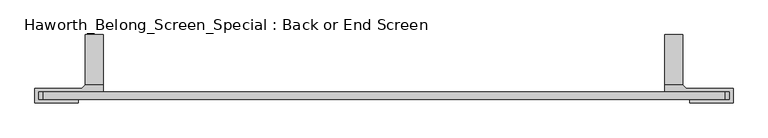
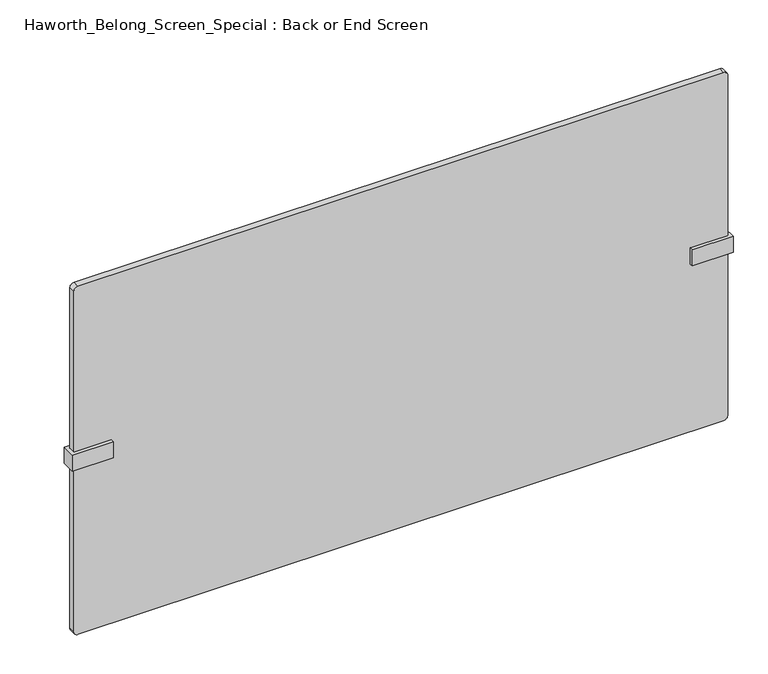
"""IFC4 building model written with IfcOpenShell, lengths in millimetres: furniture geometry, Haworth_Belong_Screen_Special : Back or End Screen."""

from ifc_helpers import new_model, si_unit, point, frame, frame_2d, origin, place, context, project, spatial, polyline, circle_curve, trimmed, segment, composite_curve, outline, extrude, faceted_brep, source, transform, mapped, element, save


def haworth_belong_screen_special_back_or_end_screen_74b999c0(model_context):
    return source(origin(), model_context, "Body", "SolidModel", [
        faceted_brep([(-527.9645436, 6.35, 700.0875), (-527.9645436, 107.95, 700.0875), (-527.9645436, 107.95, 706.4375), (-527.9645436, 19.05, 706.4375), (-527.9645436, 19.05, 738.1875), (-527.9645436, 6.35, 738.1875), (-559.7145436, 107.95, 706.4375), (-559.7145436, 107.95, 700.0875), (-559.7145436, 6.35, 700.0875), (-559.7145436, 6.35, 706.4375), (-559.7145436, 19.05, 706.4375), (-642.2645436, 6.35, 738.1875), (-642.2645436, 6.35, 706.4375), (-642.2645436, -6.35, 738.1875), (-559.7145436, 19.05, 738.1875), (-566.0645436, 12.7, 738.1875), (-648.6145436, 12.7, 738.1875), (-648.6145436, -12.7, 738.1875), (-572.4145436, -12.7, 738.1875), (-572.4145436, -6.35, 738.1875), (-642.2645436, -6.35, 706.4375), (-572.4145436, -6.35, 706.4375), (-572.4145436, -12.7, 706.4375), (-648.6145436, -12.7, 706.4375), (-648.6145436, 12.7, 706.4375), (-566.0645436, 12.7, 706.4375)], [[[0, 1, 2, 3, 4, 5]], [[6, 7, 8, 9, 10]], [[2, 6, 10, 3]], [[0, 5, 11, 12, 9, 8]], [[1, 0, 8, 7]], [[2, 1, 7, 6]], [[13, 11, 5, 4, 14, 15, 16, 17, 18, 19]], [[20, 21, 22, 23, 24, 25, 10, 9, 12]], [[11, 13, 20, 12]], [[14, 4, 3, 10]], [[15, 14, 10, 25]], [[16, 15, 25, 24]], [[17, 16, 24, 23]], [[18, 17, 23, 22]], [[19, 18, 22, 21]], [[13, 19, 21, 20]]]),
        faceted_brep([(462.6354564, 107.95, 706.4375), (462.6354564, 107.95, 700.0875), (462.6354564, 6.35, 700.0875), (462.6354564, 6.35, 738.1875), (462.6354564, 19.05, 738.1875), (462.6354564, 19.05, 706.4375), (494.3854564, 6.35, 706.4375), (494.3854564, 6.35, 700.0875), (494.3854564, 107.95, 700.0875), (494.3854564, 107.95, 706.4375), (494.3854564, 19.05, 706.4375), (576.9354564, 6.35, 706.4375), (576.9354564, 6.35, 738.1875), (576.9354564, -6.35, 738.1875), (507.0854564, -6.35, 738.1875), (507.0854564, -12.7, 738.1875), (583.2854564, -12.7, 738.1875), (583.2854564, 12.7, 738.1875), (500.7354564, 12.7, 738.1875), (494.3854564, 19.05, 738.1875), (500.7354564, 12.7, 706.4375), (583.2854564, 12.7, 706.4375), (583.2854564, -12.7, 706.4375), (507.0854564, -12.7, 706.4375), (507.0854564, -6.35, 706.4375), (576.9354564, -6.35, 706.4375)], [[[0, 1, 2, 3, 4, 5]], [[6, 7, 8, 9, 10]], [[1, 0, 9, 8]], [[2, 1, 8, 7]], [[3, 2, 7, 6, 11, 12]], [[9, 0, 5, 10]], [[12, 13, 14, 15, 16, 17, 18, 19, 4, 3]], [[10, 20, 21, 22, 23, 24, 25, 11, 6]], [[18, 17, 21, 20]], [[17, 16, 22, 21]], [[16, 15, 23, 22]], [[15, 14, 24, 23]], [[14, 13, 25, 24]], [[13, 12, 11, 25]], [[4, 19, 10, 5]], [[19, 18, 20, 10]]]),
        extrude(outline(composite_curve([segment(polyline([(1062.0375, 568.9979564), (1062.0375, -634.3270436)]), True, "CONTINUOUS"), segment(trimmed(circle_curve(frame_2d((1054.1, -634.3270436)), 7.9375), [point((1062.0375, -634.3270436))], [point((1054.1, -642.2645436))], False, "CARTESIAN"), True, "CONTINUOUS"), segment(polyline([(1054.1, -642.2645436), (384.175, -642.2645436)]), True, "CONTINUOUS"), segment(trimmed(circle_curve(frame_2d((384.175, -634.3270436)), 7.9375), [point((384.175, -642.2645436))], [point((376.2375, -634.3270436))], False, "CARTESIAN"), True, "CONTINUOUS"), segment(polyline([(376.2375, -634.3270436), (376.2375, 568.9979564)]), True, "CONTINUOUS"), segment(trimmed(circle_curve(frame_2d((384.175, 568.9979564)), 7.9375), [point((376.2375, 568.9979564))], [point((384.175, 576.9354564))], False, "CARTESIAN"), True, "CONTINUOUS"), segment(polyline([(384.175, 576.9354564), (1054.1, 576.9354564)]), True, "CONTINUOUS"), segment(trimmed(circle_curve(frame_2d((1054.1, 568.9979564)), 7.9375), [point((1054.1, 576.9354564))], [point((1062.0375, 568.9979564))], False, "CARTESIAN"), True, "CONTINUOUS")], self_intersect=False)), frame((0.0, -6.35, 0.0), z_axis=(0.0, 1.0, 0.0), x_axis=(0.0, 0.0, 1.0)), (0.0, 0.0, 1.0), 12.7),
    ])


if __name__ == "__main__":
    model = new_model("IFC4")
    model_context = context("Model", 3, world=origin())
    ifc_project = project(units=[si_unit("LENGTHUNIT", "METRE", prefix="MILLI")], contexts=[model_context])
    site = spatial("IfcSite", under=ifc_project)
    building = spatial("IfcBuilding", under=site)
    placement = place(None, origin())
    haworth_belong_screen_special_back_or_end_screen_shape = haworth_belong_screen_special_back_or_end_screen_74b999c0(model_context)
    element("IfcFurniture", 1, ObjectType="Haworth_Belong_Screen_Special : Back or End Screen", at=placement, inside=building, context=model_context, shape_type="MappedRepresentation", body=[
        mapped(haworth_belong_screen_special_back_or_end_screen_shape, transform((0.0, 0.0, 0.0), x_axis=(1.0, 0.0, 0.0), y_axis=(0.0, 1.0, 0.0), z_axis=(0.0, 0.0, 1.0))),
    ])
    save(model, "model.ifc")
